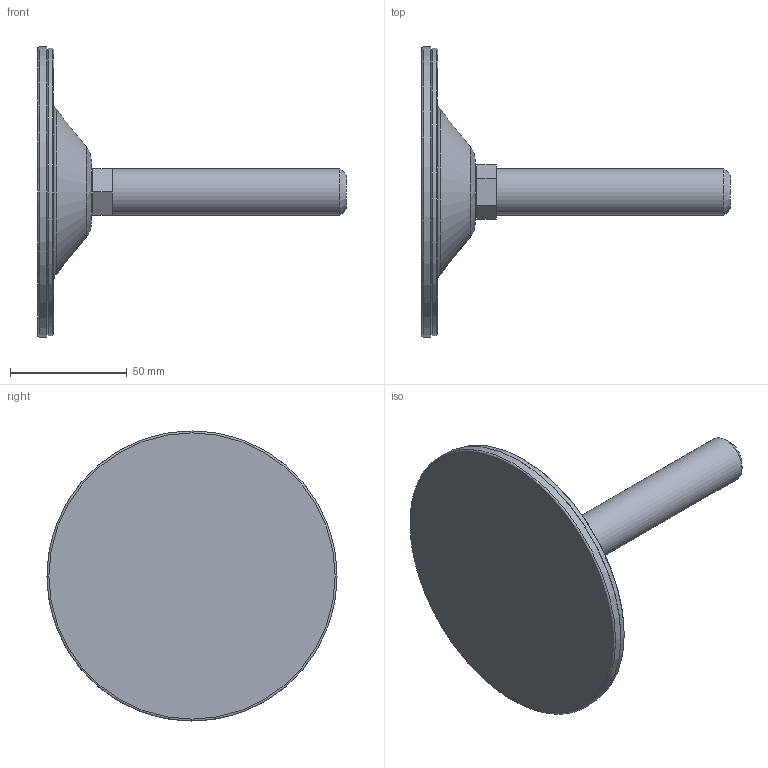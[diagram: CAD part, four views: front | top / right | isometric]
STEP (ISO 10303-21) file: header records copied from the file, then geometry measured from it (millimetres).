
FILE_DESCRIPTION(('STEP AP203'),'2;1');
FILE_NAME('15612Z-V.stp','2016-04-27T07:15:29',(''),(''),'2008.1.107','THINKDESIGN','');
FILE_SCHEMA(('CONFIG_CONTROL_DESIGN'));
Length unit declared in the file: millimetre
Bounding box: 132 x 124 x 124 mm (x, y, z)
Volume: 122029.7 mm3; surface area: 61267.4 mm2
Topology: 6 solids, 6 shells, 51 faces, 127 edges, 90 vertices
Faces by surface type: plane 26, bspline 16, cylinder 9
Full cylindrical faces by diameter (mm): 12.5 x4, 14 x1, 16 x1, 20 x1, 123 x1, 124 x1
Entity records: 2294 total; most frequent: CARTESIAN_POINT 941, DIRECTION 262, ORIENTED_EDGE 254, EDGE_CURVE 127, AXIS2_PLACEMENT_3D 100, VERTEX_POINT 90, CIRCLE 65, EDGE_LOOP 63
